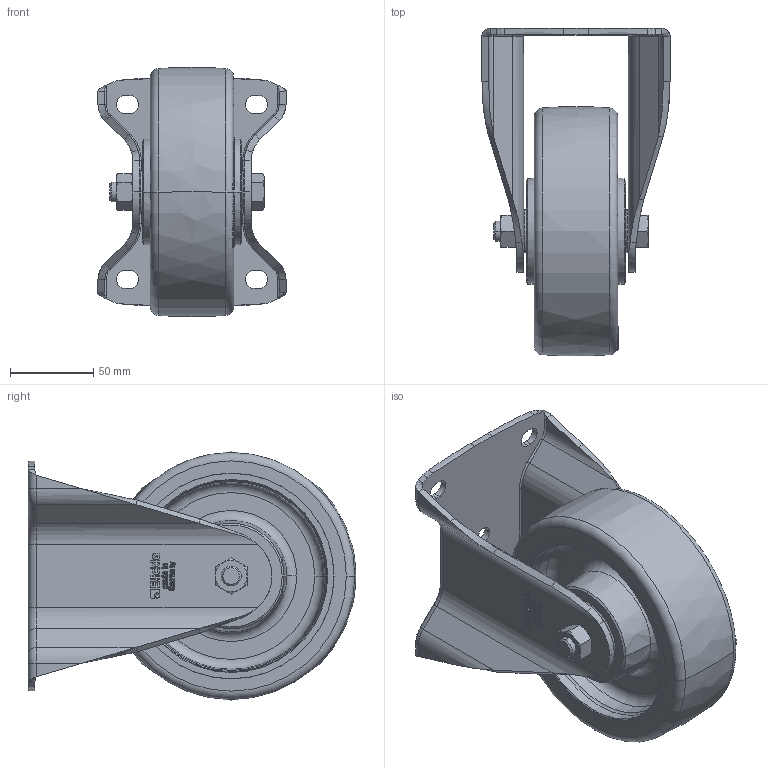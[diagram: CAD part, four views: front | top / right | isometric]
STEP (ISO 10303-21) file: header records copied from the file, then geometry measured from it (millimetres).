
FILE_DESCRIPTION (( 'STEP AP214' ), '1' );
FILE_NAME ('BH-GTH_150K_267096-214.step', '2021-11-24T14:46:39', ( '' ), ( '' ), 'SwSTEP 2.0', 'SolidWorks 2018', '' );
FILE_SCHEMA (( 'AUTOMOTIVE_DESIGN' ));
Length unit declared in the file: millimetre
Products named in the file (5): GH-BH-160x60-03_20x60_G16_3D; GTH_150_20K_G16_3D; GH-BH_150-250_GH-BH-160x60-03_20x60; GTH_3D_G16_GTH_150_20K_266478; BH-GTH_150K_267096-214
Assembly tree (4 placements, depth 3):
  BH-GTH_150K_267096-214
    GH-BH_150-250_GH-BH-160x60-03_20x60
      GH-BH-160x60-03_20x60_G16_3D
    GTH_3D_G16_GTH_150_20K_266478
      GTH_150_20K_G16_3D
Bounding box: 113 x 196.91 x 149.81 mm (x, y, z)
Volume: 732634.7 mm3; surface area: 185902 mm2
Topology: 2 solids, 5 shells, 1772 faces, 4661 edges, 3024 vertices
Faces by surface type: plane 807, bspline 670, torus 118, cylinder 106, cone 65, sphere 6
Entity records: 69249 total; most frequent: CARTESIAN_POINT 25930, ORIENTED_EDGE 9312, DIRECTION 5819, EDGE_CURVE 4656, VERTEX_POINT 3021, VECTOR 2539, LINE 2539, EDGE_LOOP 1919
